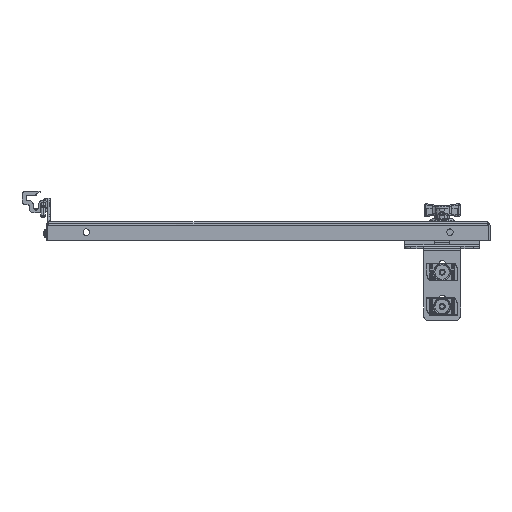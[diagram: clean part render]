
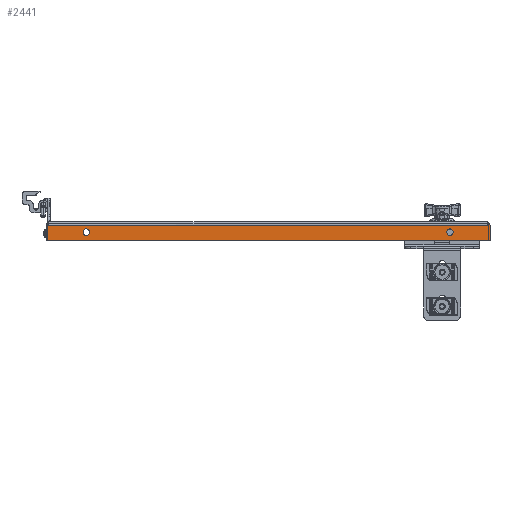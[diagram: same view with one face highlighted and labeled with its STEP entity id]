
A CAD part, front view. The second image highlights one B-rep face of the part: STEP entity #2441.
In plain terms, the highlighted planar face has unit normal (0, -1, 0).
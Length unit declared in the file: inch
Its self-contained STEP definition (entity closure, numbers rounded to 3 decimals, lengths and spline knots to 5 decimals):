
#381=CARTESIAN_POINT('',(7.9375,-36.875,0.375));
#382=DIRECTION('',(0.,-1.,0.));
#383=DIRECTION('',(-1.,0.,0.));
#384=AXIS2_PLACEMENT_3D('',#381,#382,#383);
#386=CARTESIAN_POINT('',(7.9375,-36.875,0.375));
#387=DIRECTION('',(0.,-1.,0.));
#388=DIRECTION('',(1.,0.,0.));
#389=AXIS2_PLACEMENT_3D('',#386,#387,#388);
#391=CARTESIAN_POINT('',(-7.9375,-36.875,0.375));
#392=DIRECTION('',(0.,-1.,0.));
#393=DIRECTION('',(-1.,0.,0.));
#394=AXIS2_PLACEMENT_3D('',#391,#392,#393);
#396=CARTESIAN_POINT('',(-7.9375,-36.875,0.375));
#397=DIRECTION('',(0.,-1.,0.));
#398=DIRECTION('',(1.,0.,0.));
#399=AXIS2_PLACEMENT_3D('',#396,#397,#398);
#401=CARTESIAN_POINT('',(9.6725,-36.875,0.015));
#402=DIRECTION('',(0.,-1.,0.));
#403=DIRECTION('',(0.,0.,-1.));
#404=AXIS2_PLACEMENT_3D('',#401,#402,#403);
#406=DIRECTION('',(0.,0.,1.));
#407=VECTOR('',#406,0.67);
#408=CARTESIAN_POINT('',(-9.6875,-36.875,0.));
#409=LINE('',#408,#407);
#410=DIRECTION('',(0.,0.,-1.));
#411=VECTOR('',#410,0.655);
#412=CARTESIAN_POINT('',(9.6875,-36.875,0.67));
#413=LINE('',#412,#411);
#1323=DIRECTION('',(-1.,0.,0.));
#1324=VECTOR('',#1323,19.375);
#1325=CARTESIAN_POINT('',(9.6875,-36.875,0.67));
#1326=LINE('',#1325,#1324);
#1354=DIRECTION('',(1.,0.,0.));
#1355=VECTOR('',#1354,19.36);
#1356=CARTESIAN_POINT('',(-9.6875,-36.875,0.));
#1357=LINE('',#1356,#1355);
#1582=CARTESIAN_POINT('',(9.6875,-36.875,0.67));
#1584=VERTEX_POINT('',#1582);
#1586=CARTESIAN_POINT('',(9.6725,-36.875,0.));
#1587=CARTESIAN_POINT('',(9.6875,-36.875,0.015));
#1588=VERTEX_POINT('',#1586);
#1589=VERTEX_POINT('',#1587);
#1618=CARTESIAN_POINT('',(7.797,-36.875,0.375));
#1619=CARTESIAN_POINT('',(8.078,-36.875,0.375));
#1620=VERTEX_POINT('',#1618);
#1621=VERTEX_POINT('',#1619);
#1622=CARTESIAN_POINT('',(-8.078,-36.875,0.375));
#1623=CARTESIAN_POINT('',(-7.797,-36.875,0.375));
#1624=VERTEX_POINT('',#1622);
#1625=VERTEX_POINT('',#1623);
#1742=CARTESIAN_POINT('',(-9.6875,-36.875,0.));
#1743=CARTESIAN_POINT('',(-9.6875,-36.875,0.67));
#1744=VERTEX_POINT('',#1742);
#1745=VERTEX_POINT('',#1743);
#2413=CARTESIAN_POINT('',(-9.6875,-36.875,0.));
#2414=DIRECTION('',(0.,-1.,0.));
#2415=DIRECTION('',(1.,0.,0.));
#2416=AXIS2_PLACEMENT_3D('',#2413,#2414,#2415);
#2417=PLANE('',#2416);
#2419=ORIENTED_EDGE('',*,*,#2418,.F.);
#2421=ORIENTED_EDGE('',*,*,#2420,.F.);
#2423=ORIENTED_EDGE('',*,*,#2422,.T.);
#2425=ORIENTED_EDGE('',*,*,#2424,.F.);
#2427=ORIENTED_EDGE('',*,*,#2426,.T.);
#2428=EDGE_LOOP('',(#2419,#2421,#2423,#2425,#2427));
#2429=FACE_OUTER_BOUND('',#2428,.F.);
#2431=ORIENTED_EDGE('',*,*,#2430,.T.);
#2433=ORIENTED_EDGE('',*,*,#2432,.T.);
#2434=EDGE_LOOP('',(#2431,#2433));
#2435=FACE_BOUND('',#2434,.F.);
#2436=ORIENTED_EDGE('',*,*,#2403,.T.);
#2438=ORIENTED_EDGE('',*,*,#2437,.T.);
#2439=EDGE_LOOP('',(#2436,#2438));
#2440=FACE_BOUND('',#2439,.F.);
#2441=ADVANCED_FACE('',(#2429,#2435,#2440),#2417,.T.);
#385=CIRCLE('',#384,0.1405);
#390=CIRCLE('',#389,0.1405);
#395=CIRCLE('',#394,0.1405);
#400=CIRCLE('',#399,0.1405);
#405=CIRCLE('',#404,0.015);
#2403=EDGE_CURVE('',#1624,#1625,#395,.T.);
#2418=EDGE_CURVE('',#1588,#1589,#405,.T.);
#2420=EDGE_CURVE('',#1744,#1588,#1357,.T.);
#2422=EDGE_CURVE('',#1744,#1745,#409,.T.);
#2424=EDGE_CURVE('',#1584,#1745,#1326,.T.);
#2426=EDGE_CURVE('',#1584,#1589,#413,.T.);
#2430=EDGE_CURVE('',#1620,#1621,#385,.T.);
#2432=EDGE_CURVE('',#1621,#1620,#390,.T.);
#2437=EDGE_CURVE('',#1625,#1624,#400,.T.);
